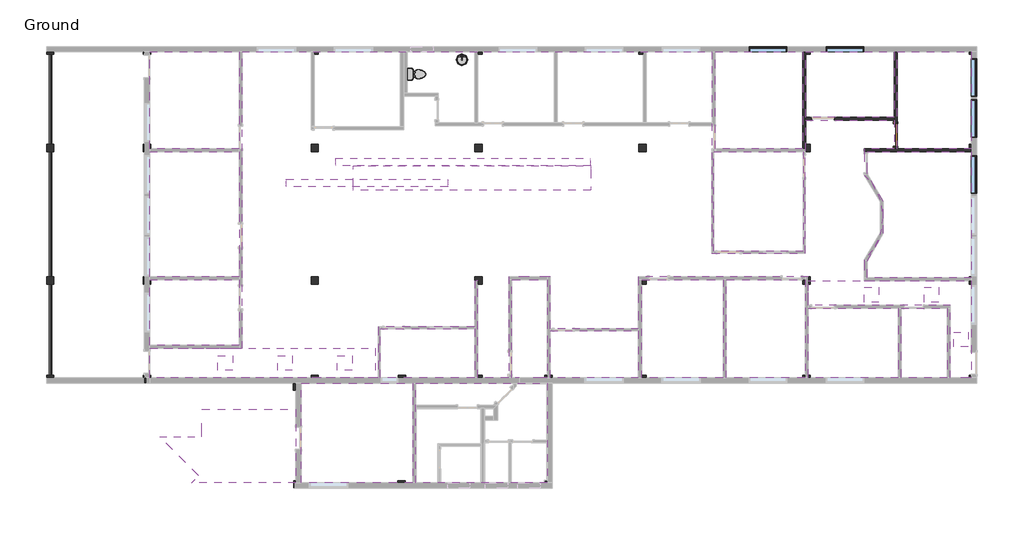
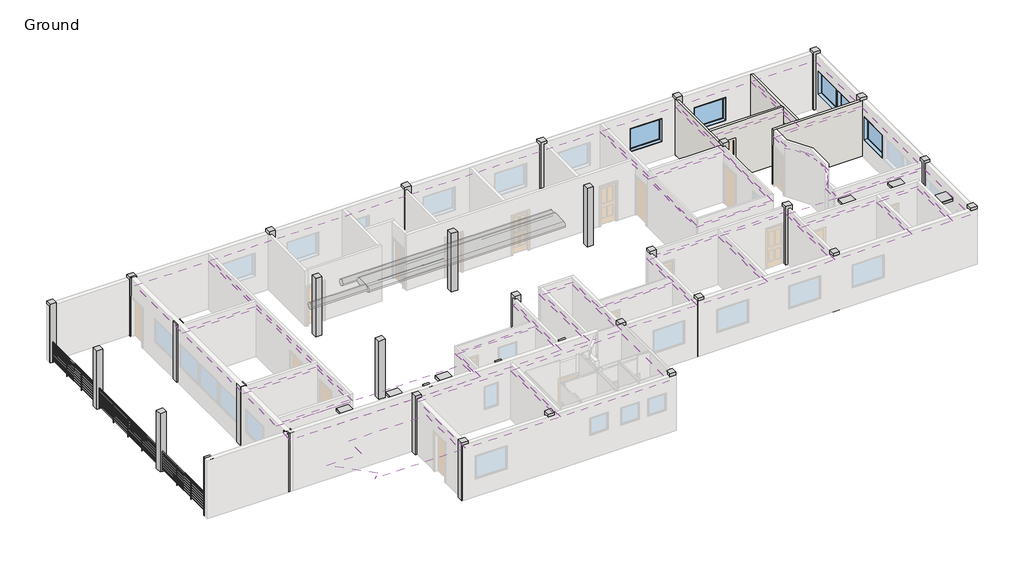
# One storey, part 4 of 4: 34 columns, 21 coverings, 6 light fixtures, 5 windows, 4 walls, 3 duct segments, 3 railings, 2 flow terminals, 1 door.
"""IFC4 building model written with IfcOpenShell, lengths in millimetres."""

from ifc_helpers import new_model, si_unit, point, frame, frame_2d, origin, place, context, project, spatial, polyline, circle_curve, trimmed, segment, composite_curve, outline, extrude, faceted_brep, transform, mapped, element, save
from components import concrete_square_column_12_x_12_d780e21f, door_43f271b1, m_toilet_domestic_3d_m_toilet_domestic_3d_5cb52bd4, m_toilet_domestic_3d_m_toilet_domestic_3d_183bbd19, flow_terminal_5184717d, m_troffer_lens_0600_x_0600mm_2_lamp_a75f89fe, guardrail_pipe_4b02b070, guardrail_pipe_bb2e5a77, guardrail_pipe_0a43caf4, window_a0bf6c86

model = new_model("IFC4")

# Units and contexts
model_context = context("Model", 3, world=origin())
ifc_project = project(units=[si_unit("LENGTHUNIT", "METRE", prefix="MILLI")], contexts=[model_context])

# Site, building, storey
site = spatial("IfcSite", under=ifc_project)
building = spatial("IfcBuilding", under=site)
storey = spatial("IfcBuildingStorey", under=building, Name="Ground", Elevation=0.0)

# Columns
placement = place(None, origin())
concrete_square_column_12_x_12_shape = concrete_square_column_12_x_12_d780e21f(model_context)
element("IfcColumn", 1, ObjectType="Concrete-Square-Column : 12 x 12", at=placement, inside=storey, context=model_context, shape_type="MappedRepresentation", body=[
    mapped(concrete_square_column_12_x_12_shape, transform((-39928.402824, 22361.49779, 0.0), x_axis=(1.0, 0.0, 0.0), y_axis=(0.0, 1.0, 0.0), z_axis=(0.0, 0.0, 1.0))),
])
element("IfcColumn", 2, ObjectType="Concrete-Square-Column : 12 x 12", at=placement, inside=storey, context=model_context, shape_type="MappedRepresentation", body=[
    mapped(concrete_square_column_12_x_12_shape, transform((-33070.402824, 22361.49779, 0.0), x_axis=(1.0, 0.0, 0.0), y_axis=(0.0, 1.0, 0.0), z_axis=(0.0, 0.0, 1.0))),
])
element("IfcColumn", 3, ObjectType="Concrete-Square-Column : 12 x 12", at=placement, inside=storey, context=model_context, shape_type="MappedRepresentation", body=[
    mapped(concrete_square_column_12_x_12_shape, transform((-26364.802824, 22361.49779, 0.0), x_axis=(1.0, 0.0, 0.0), y_axis=(0.0, 1.0, 0.0), z_axis=(0.0, 0.0, 1.0))),
])
element("IfcColumn", 4, ObjectType="Concrete-Square-Column : 12 x 12", at=placement, inside=storey, context=model_context, shape_type="MappedRepresentation", body=[
    mapped(concrete_square_column_12_x_12_shape, transform((-19659.202824, 22361.49779, 0.0), x_axis=(1.0, 0.0, 0.0), y_axis=(0.0, 1.0, 0.0), z_axis=(0.0, 0.0, 1.0))),
])
element("IfcColumn", 5, ObjectType="Concrete-Square-Column : 12 x 12", at=placement, inside=storey, context=model_context, shape_type="MappedRepresentation", body=[
    mapped(concrete_square_column_12_x_12_shape, transform((-12953.602824, 22361.49779, 0.0), x_axis=(1.0, 0.0, 0.0), y_axis=(0.0, 1.0, 0.0), z_axis=(0.0, 0.0, 1.0))),
])
element("IfcColumn", 6, ObjectType="Concrete-Square-Column : 12 x 12", at=placement, inside=storey, context=model_context, shape_type="MappedRepresentation", body=[
    mapped(concrete_square_column_12_x_12_shape, transform((-6151.165324, 22361.49779, 0.0), x_axis=(1.0, 0.0, 0.0), y_axis=(0.0, 1.0, 0.0), z_axis=(0.0, 0.0, 1.0))),
])
element("IfcColumn", 7, ObjectType="Concrete-Square-Column : 12 x 12", at=placement, inside=storey, context=model_context, shape_type="MappedRepresentation", body=[
    mapped(concrete_square_column_12_x_12_shape, transform((-39928.402824, 18378.46029, 0.0), x_axis=(1.0, 0.0, 0.0), y_axis=(0.0, 1.0, 0.0), z_axis=(0.0, 0.0, 1.0))),
])
element("IfcColumn", 8, ObjectType="Concrete-Square-Column : 12 x 12", at=placement, inside=storey, context=model_context, shape_type="MappedRepresentation", body=[
    mapped(concrete_square_column_12_x_12_shape, transform((-39928.402824, 12965.08529, 0.0), x_axis=(1.0, 0.0, 0.0), y_axis=(0.0, 1.0, 0.0), z_axis=(0.0, 0.0, 1.0))),
])
element("IfcColumn", 9, ObjectType="Concrete-Square-Column : 12 x 12", at=placement, inside=storey, context=model_context, shape_type="MappedRepresentation", body=[
    mapped(concrete_square_column_12_x_12_shape, transform((-39928.402824, 8918.54779, 0.0), x_axis=(1.0, 0.0, 0.0), y_axis=(0.0, 1.0, 0.0), z_axis=(0.0, 0.0, 1.0))),
])
element("IfcColumn", 10, ObjectType="Concrete-Square-Column : 12 x 12", at=placement, inside=storey, context=model_context, shape_type="MappedRepresentation", body=[
    mapped(concrete_square_column_12_x_12_shape, transform((-33070.402824, 8918.54779, 0.0), x_axis=(1.0, 0.0, 0.0), y_axis=(0.0, 1.0, 0.0), z_axis=(0.0, 0.0, 1.0))),
])
element("IfcColumn", 11, ObjectType="Concrete-Square-Column : 12 x 12", at=placement, inside=storey, context=model_context, shape_type="MappedRepresentation", body=[
    mapped(concrete_square_column_12_x_12_shape, transform((-33070.402824, 12965.08529, 0.0), x_axis=(1.0, 0.0, 0.0), y_axis=(0.0, 1.0, 0.0), z_axis=(0.0, 0.0, 1.0))),
])
element("IfcColumn", 12, ObjectType="Concrete-Square-Column : 12 x 12", at=placement, inside=storey, context=model_context, shape_type="MappedRepresentation", body=[
    mapped(concrete_square_column_12_x_12_shape, transform((-26364.802824, 12965.08529, 0.0), x_axis=(1.0, 0.0, 0.0), y_axis=(0.0, 1.0, 0.0), z_axis=(0.0, 0.0, 1.0))),
])
element("IfcColumn", 13, ObjectType="Concrete-Square-Column : 12 x 12", at=placement, inside=storey, context=model_context, shape_type="MappedRepresentation", body=[
    mapped(concrete_square_column_12_x_12_shape, transform((-26364.802824, 8918.54779, 0.0), x_axis=(1.0, 0.0, 0.0), y_axis=(0.0, 1.0, 0.0), z_axis=(0.0, 0.0, 1.0))),
])
element("IfcColumn", 14, ObjectType="Concrete-Square-Column : 12 x 12", at=placement, inside=storey, context=model_context, shape_type="MappedRepresentation", body=[
    mapped(concrete_square_column_12_x_12_shape, transform((-19659.202824, 8918.54779, 0.0), x_axis=(1.0, 0.0, 0.0), y_axis=(0.0, 1.0, 0.0), z_axis=(0.0, 0.0, 1.0))),
])
element("IfcColumn", 15, ObjectType="Concrete-Square-Column : 12 x 12", at=placement, inside=storey, context=model_context, shape_type="MappedRepresentation", body=[
    mapped(concrete_square_column_12_x_12_shape, transform((-19659.202824, 12965.08529, 0.0), x_axis=(1.0, 0.0, 0.0), y_axis=(0.0, 1.0, 0.0), z_axis=(0.0, 0.0, 1.0))),
])
element("IfcColumn", 16, ObjectType="Concrete-Square-Column : 12 x 12", at=placement, inside=storey, context=model_context, shape_type="MappedRepresentation", body=[
    mapped(concrete_square_column_12_x_12_shape, transform((-12953.602824, 12965.08529, 0.0), x_axis=(1.0, 0.0, 0.0), y_axis=(0.0, 1.0, 0.0), z_axis=(0.0, 0.0, 1.0))),
])
element("IfcColumn", 17, ObjectType="Concrete-Square-Column : 12 x 12", at=placement, inside=storey, context=model_context, shape_type="MappedRepresentation", body=[
    mapped(concrete_square_column_12_x_12_shape, transform((-12953.602824, 8918.54779, 0.0), x_axis=(1.0, 0.0, 0.0), y_axis=(0.0, 1.0, 0.0), z_axis=(0.0, 0.0, 1.0))),
])
element("IfcColumn", 18, ObjectType="Concrete-Square-Column : 12 x 12", at=placement, inside=storey, context=model_context, shape_type="MappedRepresentation", body=[
    mapped(concrete_square_column_12_x_12_shape, transform((-6151.165324, 8918.54779, 0.0), x_axis=(1.0, 0.0, 0.0), y_axis=(0.0, 1.0, 0.0), z_axis=(0.0, 0.0, 1.0))),
])
element("IfcColumn", 19, ObjectType="Concrete-Square-Column : 12 x 12", at=placement, inside=storey, context=model_context, shape_type="MappedRepresentation", body=[
    mapped(concrete_square_column_12_x_12_shape, transform((-6151.165324, 12965.08529, 0.0), x_axis=(1.0, 0.0, 0.0), y_axis=(0.0, 1.0, 0.0), z_axis=(0.0, 0.0, 1.0))),
])
element("IfcColumn", 20, ObjectType="Concrete-Square-Column : 12 x 12", at=placement, inside=storey, context=model_context, shape_type="MappedRepresentation", body=[
    mapped(concrete_square_column_12_x_12_shape, transform((-6151.165324, 18378.46029, 0.0), x_axis=(1.0, 0.0, 0.0), y_axis=(0.0, 1.0, 0.0), z_axis=(0.0, 0.0, 1.0))),
])
element("IfcColumn", 21, ObjectType="Concrete-Square-Column : 12 x 12", at=placement, inside=storey, context=model_context, shape_type="MappedRepresentation", body=[
    mapped(concrete_square_column_12_x_12_shape, transform((-12953.602824, 18378.46029, 0.0), x_axis=(1.0, 0.0, 0.0), y_axis=(0.0, 1.0, 0.0), z_axis=(0.0, 0.0, 1.0))),
])
element("IfcColumn", 22, ObjectType="Concrete-Square-Column : 12 x 12", at=placement, inside=storey, context=model_context, shape_type="MappedRepresentation", body=[
    mapped(concrete_square_column_12_x_12_shape, transform((-19659.202824, 18378.46029, 0.0), x_axis=(1.0, 0.0, 0.0), y_axis=(0.0, 1.0, 0.0), z_axis=(0.0, 0.0, 1.0))),
])
element("IfcColumn", 23, ObjectType="Concrete-Square-Column : 12 x 12", at=placement, inside=storey, context=model_context, shape_type="MappedRepresentation", body=[
    mapped(concrete_square_column_12_x_12_shape, transform((-26364.802824, 18378.46029, 0.0), x_axis=(1.0, 0.0, 0.0), y_axis=(0.0, 1.0, 0.0), z_axis=(0.0, 0.0, 1.0))),
])
element("IfcColumn", 24, ObjectType="Concrete-Square-Column : 12 x 12", at=placement, inside=storey, context=model_context, shape_type="MappedRepresentation", body=[
    mapped(concrete_square_column_12_x_12_shape, transform((-33070.402824, 18378.46029, 0.0), x_axis=(1.0, 0.0, 0.0), y_axis=(0.0, 1.0, 0.0), z_axis=(0.0, 0.0, 1.0))),
])
element("IfcColumn", 25, ObjectType="Concrete-Square-Column : 12 x 12", at=placement, inside=storey, context=model_context, shape_type="MappedRepresentation", body=[
    mapped(concrete_square_column_12_x_12_shape, transform((-43890.802824, 8918.54779, 0.0), x_axis=(1.0, 0.0, 0.0), y_axis=(0.0, 1.0, 0.0), z_axis=(0.0, 0.0, 1.0))),
])
element("IfcColumn", 26, ObjectType="Concrete-Square-Column : 12 x 12", at=placement, inside=storey, context=model_context, shape_type="MappedRepresentation", body=[
    mapped(concrete_square_column_12_x_12_shape, transform((-43890.802824, 12965.08529, 0.0), x_axis=(1.0, 0.0, 0.0), y_axis=(0.0, 1.0, 0.0), z_axis=(0.0, 0.0, 1.0))),
])
element("IfcColumn", 27, ObjectType="Concrete-Square-Column : 12 x 12", at=placement, inside=storey, context=model_context, shape_type="MappedRepresentation", body=[
    mapped(concrete_square_column_12_x_12_shape, transform((-43890.802824, 18378.46029, 0.0), x_axis=(1.0, 0.0, 0.0), y_axis=(0.0, 1.0, 0.0), z_axis=(0.0, 0.0, 1.0))),
])
element("IfcColumn", 28, ObjectType="Concrete-Square-Column : 12 x 12", at=placement, inside=storey, context=model_context, shape_type="MappedRepresentation", body=[
    mapped(concrete_square_column_12_x_12_shape, transform((-43890.802824, 22361.49779, 0.0), x_axis=(1.0, 0.0, 0.0), y_axis=(0.0, 1.0, 0.0), z_axis=(0.0, 0.0, 1.0))),
])
element("IfcColumn", 29, ObjectType="Concrete-Square-Column : 12 x 12", at=placement, inside=storey, context=model_context, shape_type="MappedRepresentation", body=[
    mapped(concrete_square_column_12_x_12_shape, transform((-23512.065324, 8918.54779, 0.0), x_axis=(1.0, 0.0, 0.0), y_axis=(0.0, 1.0, 0.0), z_axis=(0.0, 0.0, 1.0))),
])
element("IfcColumn", 30, ObjectType="Concrete-Square-Column : 12 x 12", at=placement, inside=storey, context=model_context, shape_type="MappedRepresentation", body=[
    mapped(concrete_square_column_12_x_12_shape, transform((-23512.065324, 4621.18529, 0.0), x_axis=(1.0, 0.0, 0.0), y_axis=(0.0, 1.0, 0.0), z_axis=(0.0, 0.0, 1.0))),
])
element("IfcColumn", 31, ObjectType="Concrete-Square-Column : 12 x 12", at=placement, inside=storey, context=model_context, shape_type="MappedRepresentation", body=[
    mapped(concrete_square_column_12_x_12_shape, transform((-29508.052824, 8918.54779, 0.0), x_axis=(1.0, 0.0, 0.0), y_axis=(0.0, 1.0, 0.0), z_axis=(0.0, 0.0, 1.0))),
])
element("IfcColumn", 32, ObjectType="Concrete-Square-Column : 12 x 12", at=placement, inside=storey, context=model_context, shape_type="MappedRepresentation", body=[
    mapped(concrete_square_column_12_x_12_shape, transform((-33791.127824, 8613.74779, 0.0), x_axis=(1.0, 0.0, 0.0), y_axis=(0.0, 1.0, 0.0), z_axis=(0.0, 0.0, 1.0))),
])
element("IfcColumn", 33, ObjectType="Concrete-Square-Column : 12 x 12", at=placement, inside=storey, context=model_context, shape_type="MappedRepresentation", body=[
    mapped(concrete_square_column_12_x_12_shape, transform((-29516.8878988, 4621.18529, 0.0), x_axis=(1.0, 0.0, 0.0), y_axis=(0.0, 1.0, 0.0), z_axis=(0.0, 0.0, 1.0))),
])
element("IfcColumn", 34, ObjectType="Concrete-Square-Column : 12 x 12", at=placement, inside=storey, context=model_context, shape_type="MappedRepresentation", body=[
    mapped(concrete_square_column_12_x_12_shape, transform((-33784.0878988, 4621.18529, 0.0), x_axis=(1.0, 0.0, 0.0), y_axis=(0.0, 1.0, 0.0), z_axis=(0.0, 0.0, 1.0))),
])

# Coverings
element("IfcCovering", 35, ObjectType="2' x 4' ACT System", at=placement, inside=storey, context=model_context, shape_type="SweptSolid", body=[
    extrude(outline(polyline([(-39818.865324, 18349.88529), (-39818.865324, 22307.52279), (-36166.027824, 22307.52279), (-36166.027824, 18349.88529), (-39818.865324, 18349.88529)])), frame((0.0, 0.0, 2514.6), z_axis=(0.0, 0.0, 1.0), x_axis=(1.0, 0.0, 0.0)), (0.0, 0.0, 1.0), 57.15),
])
element("IfcCovering", 36, ObjectType="2' x 4' ACT System", at=placement, inside=storey, context=model_context, shape_type="SweptSolid", body=[
    extrude(outline(polyline([(-36166.027824, 13117.48529), (-39818.865324, 13117.48529), (-39818.865324, 18226.06029), (-36166.027824, 18226.06029), (-36166.027824, 13117.48529)])), frame((0.0, 0.0, 2514.6), z_axis=(0.0, 0.0, 1.0), x_axis=(1.0, 0.0, 0.0)), (0.0, 0.0, 1.0), 57.15),
])
element("IfcCovering", 37, ObjectType="2' x 4' ACT System", at=placement, inside=storey, context=model_context, shape_type="SweptSolid", body=[
    extrude(outline(polyline([(-36166.027824, 10304.9644567), (-39818.865324, 10304.9644567), (-39818.865324, 12993.66029), (-36166.027824, 12993.66029), (-36166.027824, 10304.9644567)])), frame((0.0, 0.0, 2514.6), z_axis=(0.0, 0.0, 1.0), x_axis=(1.0, 0.0, 0.0)), (0.0, 0.0, 1.0), 57.15),
])
element("IfcCovering", 38, ObjectType="2' x 4' ACT System", at=placement, inside=storey, context=model_context, shape_type="SweptSolid", body=[
    extrude(outline(polyline([(-16688.990324, 22307.52279), (-13106.002824, 22307.52279), (-13106.002824, 18343.53529), (-16688.990324, 18343.53529), (-16688.990324, 22307.52279)])), frame((0.0, 0.0, 2514.6), z_axis=(0.0, 0.0, 1.0), x_axis=(1.0, 0.0, 0.0)), (0.0, 0.0, 1.0), 57.15),
])
element("IfcCovering", 39, ObjectType="2' x 4' ACT System", at=placement, inside=storey, context=model_context, shape_type="SweptSolid", body=[
    extrude(outline(polyline([(-12982.177824, 22307.52279), (-9372.202824, 22307.52279), (-9372.202824, 19632.58529), (-12982.177824, 19632.58529), (-12982.177824, 22307.52279)])), frame((0.0, 0.0, 2514.6), z_axis=(0.0, 0.0, 1.0), x_axis=(1.0, 0.0, 0.0)), (0.0, 0.0, 1.0), 57.15),
])
element("IfcCovering", 40, ObjectType="2' x 4' ACT System", at=placement, inside=storey, context=model_context, shape_type="SweptSolid", body=[
    extrude(outline(polyline([(-9248.377824, 22307.52279), (-6205.140324, 22307.52279), (-6205.140324, 18343.53529), (-9248.377824, 18343.53529), (-9248.377824, 22307.52279)])), frame((0.0, 0.0, 2514.6), z_axis=(0.0, 0.0, 1.0), x_axis=(1.0, 0.0, 0.0)), (0.0, 0.0, 1.0), 57.15),
])
element("IfcCovering", 41, ObjectType="2' x 4' ACT System", at=placement, inside=storey, context=model_context, shape_type="SweptSolid", body=[
    extrude(outline(composite_curve([segment(polyline([(-10467.577824, 18219.71029), (-6205.140324, 18219.71029), (-6205.140324, 13073.03529), (-10467.577824, 13073.03529), (-10467.577824, 13753.2813276)]), True, "CONTINUOUS"), segment(trimmed(circle_curve(frame_2d((-12218.244142, 15538.42279)), 2500.3125), [point((-10467.577824, 13753.2813276))], [point((-10467.577824, 17323.5642525))], True, "CARTESIAN"), True, "CONTINUOUS"), segment(polyline([(-10467.577824, 17323.5642525), (-10467.577824, 18219.71029)]), True, "CONTINUOUS")], self_intersect=False)), frame((0.0, 0.0, 2514.6), z_axis=(0.0, 0.0, 1.0), x_axis=(1.0, 0.0, 0.0)), (0.0, 0.0, 1.0), 57.15),
])
element("IfcCovering", 42, ObjectType="2' x 4' ACT System", at=placement, inside=storey, context=model_context, shape_type="SweptSolid", body=[
    extrude(outline(polyline([(-16741.377824, 14150.94779), (-16741.377824, 18219.71029), (-13083.777824, 18219.71029), (-13083.777824, 14150.94779), (-16741.377824, 14150.94779)])), frame((0.0, 0.0, 2514.6), z_axis=(0.0, 0.0, 1.0), x_axis=(1.0, 0.0, 0.0)), (0.0, 0.0, 1.0), 57.15),
])
element("IfcCovering", 43, ObjectType="2' x 4' ACT System", at=placement, inside=storey, context=model_context, shape_type="SweptSolid", body=[
    extrude(outline(polyline([(-16231.790324, 12993.66029), (-13015.515324, 12993.66029), (-13015.515324, 8972.52279), (-16231.790324, 8972.52279), (-16231.790324, 12993.66029)])), frame((0.0, 0.0, 2514.6), z_axis=(0.0, 0.0, 1.0), x_axis=(1.0, 0.0, 0.0)), (0.0, 0.0, 1.0), 57.15),
])
element("IfcCovering", 44, ObjectType="2' x 4' ACT System", at=placement, inside=storey, context=model_context, shape_type="SweptSolid", body=[
    extrude(outline(polyline([(-19703.652824, 12993.66029), (-16355.615324, 12993.66029), (-16355.615324, 8972.52279), (-19703.652824, 8972.52279), (-19703.652824, 12993.66029)])), frame((0.0, 0.0, 2514.6), z_axis=(0.0, 0.0, 1.0), x_axis=(1.0, 0.0, 0.0)), (0.0, 0.0, 1.0), 57.15),
])
element("IfcCovering", 45, ObjectType="2' x 4' ACT System", at=placement, inside=storey, context=model_context, shape_type="SweptSolid", body=[
    extrude(outline(polyline([(-9207.102824, 8972.52279), (-12891.690324, 8972.52279), (-12891.690324, 11818.91029), (-9207.102824, 11818.91029), (-9207.102824, 8972.52279)])), frame((0.0, 0.0, 2514.6), z_axis=(0.0, 0.0, 1.0), x_axis=(1.0, 0.0, 0.0)), (0.0, 0.0, 1.0), 57.15),
])
element("IfcCovering", 46, ObjectType="2' x 4' ACT System", at=placement, inside=storey, context=model_context, shape_type="SweptSolid", body=[
    extrude(outline(polyline([(-7195.740324, 8972.52279), (-9083.277824, 8972.52279), (-9083.277824, 11818.91029), (-7195.740324, 11818.91029), (-7195.740324, 8972.52279)])), frame((0.0, 0.0, 2514.6), z_axis=(0.0, 0.0, 1.0), x_axis=(1.0, 0.0, 0.0)), (0.0, 0.0, 1.0), 57.15),
])
element("IfcCovering", 47, ObjectType="2' x 4' ACT System", at=placement, inside=storey, context=model_context, shape_type="SweptSolid", body=[
    extrude(outline(polyline([(-23432.690324, 10894.98529), (-19827.477824, 10894.98529), (-19827.477824, 8972.52279), (-23432.690324, 8972.52279), (-23432.690324, 10894.98529)])), frame((0.0, 0.0, 2514.6), z_axis=(0.0, 0.0, 1.0), x_axis=(1.0, 0.0, 0.0)), (0.0, 0.0, 1.0), 57.15),
])
element("IfcCovering", 48, ObjectType="2' x 4' ACT System", at=placement, inside=storey, context=model_context, shape_type="SweptSolid", body=[
    extrude(outline(polyline([(-25020.190324, 12993.66029), (-23556.515324, 12993.66029), (-23556.515324, 8972.52279), (-24701.102824, 8972.52279), (-25020.190324, 8972.52279), (-25020.190324, 12993.66029)])), frame((0.0, 0.0, 2514.6), z_axis=(0.0, 0.0, 1.0), x_axis=(1.0, 0.0, 0.0)), (0.0, 0.0, 1.0), 57.15),
])
element("IfcCovering", 49, ObjectType="2' x 4' ACT System", at=placement, inside=storey, context=model_context, shape_type="SweptSolid", body=[
    extrude(outline(polyline([(-30397.052824, 10987.06029), (-26533.077824, 10987.06029), (-26533.077824, 8972.52279), (-30397.052824, 8972.52279), (-30397.052824, 10987.06029)])), frame((0.0, 0.0, 2514.6), z_axis=(0.0, 0.0, 1.0), x_axis=(1.0, 0.0, 0.0)), (0.0, 0.0, 1.0), 57.15),
])
element("IfcCovering", 50, ObjectType="2' x 4' ACT System", at=placement, inside=storey, context=model_context, shape_type="SweptSolid", body=[
    extrude(outline(polyline([(-29065.140324, 8753.44779), (-29065.140324, 4675.16029), (-33632.377824, 4675.16029), (-33632.377824, 8753.44779), (-29065.140324, 8753.44779)])), frame((0.0, 0.0, 2514.6), z_axis=(0.0, 0.0, 1.0), x_axis=(1.0, 0.0, 0.0)), (0.0, 0.0, 1.0), 57.15),
])
element("IfcCovering", 51, ObjectType="2' x 4' ACT System", at=placement, inside=storey, context=model_context, shape_type="SweptSolid", body=[
    extrude(outline(polyline([(-33853.040324, 7686.64779), (-33853.040324, 4675.16029), (-38096.1227235, 4675.16029), (-37812.8000173, 4958.4829962), (-39418.5074722, 6564.1904511), (-37685.265324, 6564.1904511), (-37685.265324, 7686.64779), (-33853.040324, 7686.64779)])), frame((0.0, 0.0, 2514.6), z_axis=(0.0, 0.0, 1.0), x_axis=(1.0, 0.0, 0.0)), (0.0, 0.0, 1.0), 57.15),
])
element("IfcCovering", 52, ObjectType="2' x 4' ACT System", at=placement, inside=storey, context=model_context, shape_type="SweptSolid", body=[
    extrude(outline(polyline([(-12891.690324, 12949.21029), (-6205.140324, 12949.21029), (-6205.140324, 8972.52279), (-7071.915324, 8972.52279), (-7071.915324, 11942.73529), (-12891.690324, 11942.73529), (-12891.690324, 12949.21029)]), holes=[polyline([(-9992.2426179, 12673.77904), (-10592.2426179, 12673.77904), (-10592.2426179, 12073.77904), (-9992.2426179, 12073.77904), (-9992.2426179, 12673.77904)]), polyline([(-7544.2426179, 12673.77904), (-8144.2426179, 12673.77904), (-8144.2426179, 12073.77904), (-7544.2426179, 12073.77904), (-7544.2426179, 12673.77904)]), polyline([(-6334.6426179, 10844.97904), (-6934.6426179, 10844.97904), (-6934.6426179, 10244.97904), (-6334.6426179, 10244.97904), (-6334.6426179, 10844.97904)])]), frame((0.0, 0.0, 2514.6), z_axis=(0.0, 0.0, 1.0), x_axis=(1.0, 0.0, 0.0)), (0.0, 0.0, 1.0), 57.15),
])
element("IfcCovering", 53, ObjectType="2' x 4' ACT System", at=placement, inside=storey, context=model_context, shape_type="SweptSolid", body=[
    extrude(outline(polyline([(-30589.140324, 10181.1394567), (-30589.140324, 8972.52279), (-39818.865324, 8972.52279), (-39818.865324, 10181.1394567), (-30589.140324, 10181.1394567)]), holes=[polyline([(-33981.627824, 9877.32279), (-34581.627824, 9877.32279), (-34581.627824, 9277.32279), (-33981.627824, 9277.32279), (-33981.627824, 9877.32279)]), polyline([(-31543.227824, 9877.32279), (-32143.227824, 9877.32279), (-32143.227824, 9277.32279), (-31543.227824, 9277.32279), (-31543.227824, 9877.32279)]), polyline([(-36432.802824, 9881.5561234), (-37032.802824, 9881.5561234), (-37032.802824, 9281.5561234), (-36432.802824, 9281.5561234), (-36432.802824, 9881.5561234)])]), frame((0.0, 0.0, 2514.6), z_axis=(0.0, 0.0, 1.0), x_axis=(1.0, 0.0, 0.0)), (0.0, 0.0, 1.0), 57.15),
])
element("IfcCovering", 54, ObjectType="2' x 4' ACT System", at=placement, inside=storey, context=model_context, shape_type="SweptSolid", body=[
    extrude(outline(polyline([(-23566.040324, 8753.44779), (-23566.040324, 4675.16029), (-28941.315324, 4675.16029), (-28941.315324, 8753.44779), (-23566.040324, 8753.44779)])), frame((0.0, 0.0, 2514.6), z_axis=(0.0, 0.0, 1.0), x_axis=(1.0, 0.0, 0.0)), (0.0, 0.0, 1.0), 57.15),
])
element("IfcCovering", 55, ObjectType="2' x 4' ACT System", at=placement, inside=storey, context=model_context, shape_type="SweptSolid", body=[
    extrude(outline(composite_curve([segment(polyline([(-30476.427824, 8972.52279), (-39818.865324, 8972.52279), (-39818.865324, 10181.1394567), (-36042.202824, 10181.1394567), (-36042.202824, 22307.52279), (-16820.752824, 22307.52279), (-16820.752824, 14071.57279), (-13004.402824, 14071.57279), (-13004.402824, 18281.62279), (-12982.177824, 18281.62279), (-12982.177824, 19508.76029), (-9372.202824, 19508.76029), (-9372.202824, 18343.53529), (-10591.402824, 18343.53529), (-10591.402824, 17270.785386)]), True, "CONTINUOUS"), segment(trimmed(circle_curve(frame_2d((-12218.244142, 15538.42279)), 2376.4875), [point((-10591.402824, 17270.785386))], [point((-10591.402824, 13806.060194))], False, "CARTESIAN"), True, "CONTINUOUS"), segment(polyline([(-10591.402824, 13806.060194), (-10591.402824, 12949.21029), (-6205.140324, 12949.21029), (-6205.140324, 8972.52279), (-7071.915324, 8972.52279), (-7071.915324, 11942.73529), (-12891.690324, 11942.73529), (-12891.690324, 13117.48529), (-19827.477824, 13117.48529), (-19827.477824, 10974.36029), (-23432.690324, 10974.36029), (-23432.690324, 13117.48529), (-25144.015324, 13117.48529), (-25144.015324, 8972.52279), (-26409.252824, 8972.52279), (-26409.252824, 12947.62279), (-26533.077824, 12947.62279), (-26533.077824, 11066.43529), (-30476.427824, 11066.43529), (-30476.427824, 8972.52279)]), True, "CONTINUOUS")], self_intersect=False)), frame((0.0, 0.0, 2514.6), z_axis=(0.0, 0.0, 1.0), x_axis=(1.0, 0.0, 0.0)), (0.0, 0.0, 1.0), 57.15),
])

# Door
door_shape = door_43f271b1(model_context)
element("IfcDoor", 56, ObjectType="Single-Flush : 36\" x 80\" - D1", at=placement, inside=storey, context=model_context, shape_type="MappedRepresentation", body=[
    mapped(door_shape, transform((-9310.290324, 18910.27279, 0.0), x_axis=(0.0, -1.0, 0.0), y_axis=(1.0, 0.0, 0.0), z_axis=(0.0, 0.0, 1.0))),
])

# Duct segments
element("IfcDuctSegment", 57, ObjectType="Default", at=placement, inside=storey, context=model_context, shape_type="SweptSolid", body=[
    extrude(outline(composite_curve([segment(polyline([(16944.1229671, 2895.6), (16946.6528071, 2895.6)]), True, "CONTINUOUS"), segment(trimmed(circle_curve(frame_2d((16946.6528071, 2743.2)), 152.4), [point((16946.6528071, 2895.6))], [point((17099.0528071, 2743.2))], False, "CARTESIAN"), True, "CONTINUOUS"), segment(trimmed(circle_curve(frame_2d((16946.6528071, 2743.2)), 152.4), [point((17099.0528071, 2743.2))], [point((16946.6528071, 2590.8))], False, "CARTESIAN"), True, "CONTINUOUS"), segment(polyline([(16946.6528071, 2590.8), (16944.1229671, 2590.8)]), True, "CONTINUOUS"), segment(trimmed(circle_curve(frame_2d((16944.1229671, 2743.2)), 152.4), [point((16944.1229671, 2590.8))], [point((16791.7229671, 2743.2))], False, "CARTESIAN"), True, "CONTINUOUS"), segment(trimmed(circle_curve(frame_2d((16944.1229671, 2743.2)), 152.4), [point((16791.7229671, 2743.2))], [point((16944.1229671, 2895.6))], False, "CARTESIAN"), True, "CONTINUOUS")], self_intersect=False)), frame((-34231.968442, 0.0, 0.0), z_axis=(1.0, 0.0, 0.0), x_axis=(0.0, 1.0, 0.0)), (0.0, 0.0, 1.0), 6597.165618),
])
element("IfcDuctSegment", 58, ObjectType="Default", at=placement, inside=storey, context=model_context, shape_type="SweptSolid", body=[
    extrude(outline(composite_curve([segment(polyline([(17793.4483441, 2895.6), (17795.9781841, 2895.6)]), True, "CONTINUOUS"), segment(trimmed(circle_curve(frame_2d((17795.9781841, 2743.2)), 152.4), [point((17795.9781841, 2895.6))], [point((17948.3781841, 2743.2))], False, "CARTESIAN"), True, "CONTINUOUS"), segment(trimmed(circle_curve(frame_2d((17795.9781841, 2743.2)), 152.4), [point((17948.3781841, 2743.2))], [point((17795.9781841, 2590.8))], False, "CARTESIAN"), True, "CONTINUOUS"), segment(polyline([(17795.9781841, 2590.8), (17793.4483441, 2590.8)]), True, "CONTINUOUS"), segment(trimmed(circle_curve(frame_2d((17793.4483441, 2743.2)), 152.4), [point((17793.4483441, 2590.8))], [point((17641.0483441, 2743.2))], False, "CARTESIAN"), True, "CONTINUOUS"), segment(trimmed(circle_curve(frame_2d((17793.4483441, 2743.2)), 152.4), [point((17641.0483441, 2743.2))], [point((17793.4483441, 2895.6))], False, "CARTESIAN"), True, "CONTINUOUS")], self_intersect=False)), frame((-32206.2197541, 0.0, 0.0), z_axis=(1.0, 0.0, 0.0), x_axis=(0.0, 1.0, 0.0)), (0.0, 0.0, 1.0), 10400.0),
])
element("IfcDuctSegment", 59, ObjectType="Default", at=placement, inside=storey, context=model_context, shape_type="SweptSolid", body=[
    extrude(outline(composite_curve([segment(polyline([(16792.2905138, 2895.6), (17503.4905138, 2895.6)]), True, "CONTINUOUS"), segment(trimmed(circle_curve(frame_2d((17503.4905138, 2743.2)), 152.4), [point((17503.4905138, 2895.6))], [point((17655.8905138, 2743.2))], False, "CARTESIAN"), True, "CONTINUOUS"), segment(trimmed(circle_curve(frame_2d((17503.4905138, 2743.2)), 152.4), [point((17655.8905138, 2743.2))], [point((17503.4905138, 2590.8))], False, "CARTESIAN"), True, "CONTINUOUS"), segment(polyline([(17503.4905138, 2590.8), (16792.2905138, 2590.8)]), True, "CONTINUOUS"), segment(trimmed(circle_curve(frame_2d((16792.2905138, 2743.2)), 152.4), [point((16792.2905138, 2590.8))], [point((16639.8905138, 2743.2))], False, "CARTESIAN"), True, "CONTINUOUS"), segment(trimmed(circle_curve(frame_2d((16792.2905138, 2743.2)), 152.4), [point((16639.8905138, 2743.2))], [point((16792.2905138, 2895.6))], False, "CARTESIAN"), True, "CONTINUOUS")], self_intersect=False)), frame((-31488.7692488, 0.0, 0.0), z_axis=(1.0, 0.0, 0.0), x_axis=(0.0, 1.0, 0.0)), (0.0, 0.0, 1.0), 9700.0),
])

# Flow terminals
m_toilet_domestic_3d_m_toilet_domestic_3d_shape = m_toilet_domestic_3d_m_toilet_domestic_3d_5cb52bd4(model_context)
m_toilet_domestic_3d_m_toilet_domestic_3d_2_shape = m_toilet_domestic_3d_m_toilet_domestic_3d_183bbd19(model_context)
element("IfcFlowTerminal", 60, ObjectType="M_Toilet-Domestic-3D : M_Toilet-Domestic-3D", at=placement, inside=storey, context=model_context, shape_type="MappedRepresentation", body=[
    mapped(m_toilet_domestic_3d_m_toilet_domestic_3d_shape, transform((-28830.190324, 21393.12279, 0.0), x_axis=(0.0, 1.0, 0.0), y_axis=(-1.0, 0.0, 0.0), z_axis=(0.0, 0.0, 1.0))),
    mapped(m_toilet_domestic_3d_m_toilet_domestic_3d_2_shape, transform((-28830.190324, 21393.12279, 0.0), x_axis=(0.0, 1.0, 0.0), y_axis=(-1.0, 0.0, 0.0), z_axis=(0.0, 0.0, 1.0))),
])
flow_terminal_shape = flow_terminal_5184717d(model_context)
element("IfcFlowTerminal", 61, ObjectType="Sink Vanity-Round : 19\" x 19\"", at=placement, inside=storey, context=model_context, shape_type="MappedRepresentation", body=[
    mapped(flow_terminal_shape, transform((-27147.2545646, 21903.5734981, 0.0), x_axis=(1.0, 0.0, 0.0), y_axis=(0.0, 1.0, 0.0), z_axis=(0.0, 0.0, 1.0))),
])

# Light fixtures
m_troffer_lens_0600_x_0600mm_2_lamp_shape = m_troffer_lens_0600_x_0600mm_2_lamp_a75f89fe(model_context)
element("IfcLightFixture", 62, ObjectType="M_Troffer - Lens : 0600 x 0600mm (2 Lamp)", at=placement, inside=storey, context=model_context, shape_type="MappedRepresentation", body=[
    mapped(m_troffer_lens_0600_x_0600mm_2_lamp_shape, transform((-34262.9243225, 9636.7887221, 76.2), x_axis=(1.0, 0.0, 0.0), y_axis=(0.0, 1.0, 0.0), z_axis=(0.0, 0.0, 1.0))),
])
element("IfcLightFixture", 63, ObjectType="M_Troffer - Lens : 0600 x 0600mm (2 Lamp)", at=placement, inside=storey, context=model_context, shape_type="MappedRepresentation", body=[
    mapped(m_troffer_lens_0600_x_0600mm_2_lamp_shape, transform((-31824.5243225, 9636.7887221, 76.2), x_axis=(1.0, 0.0, 0.0), y_axis=(0.0, 1.0, 0.0), z_axis=(0.0, 0.0, 1.0))),
])
element("IfcLightFixture", 64, ObjectType="M_Troffer - Lens : 0600 x 0600mm (2 Lamp)", at=placement, inside=storey, context=model_context, shape_type="MappedRepresentation", body=[
    mapped(m_troffer_lens_0600_x_0600mm_2_lamp_shape, transform((-36714.0993225, 9641.0220555, 76.2), x_axis=(1.0, 0.0, 0.0), y_axis=(0.0, 1.0, 0.0), z_axis=(0.0, 0.0, 1.0))),
])
element("IfcLightFixture", 65, ObjectType="M_Troffer - Lens : 0600 x 0600mm (2 Lamp)", at=placement, inside=storey, context=model_context, shape_type="MappedRepresentation", body=[
    mapped(m_troffer_lens_0600_x_0600mm_2_lamp_shape, transform((-10273.5391163, 12433.2449721, 76.2), x_axis=(1.0, 0.0, 0.0), y_axis=(0.0, 1.0, 0.0), z_axis=(0.0, 0.0, 1.0))),
])
element("IfcLightFixture", 66, ObjectType="M_Troffer - Lens : 0600 x 0600mm (2 Lamp)", at=placement, inside=storey, context=model_context, shape_type="MappedRepresentation", body=[
    mapped(m_troffer_lens_0600_x_0600mm_2_lamp_shape, transform((-7825.5391163, 12433.2449721, 76.2), x_axis=(1.0, 0.0, 0.0), y_axis=(0.0, 1.0, 0.0), z_axis=(0.0, 0.0, 1.0))),
])
element("IfcLightFixture", 67, ObjectType="M_Troffer - Lens : 0600 x 0600mm (2 Lamp)", at=placement, inside=storey, context=model_context, shape_type="MappedRepresentation", body=[
    mapped(m_troffer_lens_0600_x_0600mm_2_lamp_shape, transform((-6615.9391163, 10604.4449721, 76.2), x_axis=(1.0, 0.0, 0.0), y_axis=(0.0, 1.0, 0.0), z_axis=(0.0, 0.0, 1.0))),
])

# Railings
guardrail_pipe_shape = guardrail_pipe_4b02b070(model_context)
element("IfcRailing", 68, ObjectType="Guardrail - Pipe", at=placement, inside=storey, context=model_context, shape_type="MappedRepresentation", body=[
    mapped(guardrail_pipe_shape, transform((0.0, 0.0, 0.0), x_axis=(1.0, 0.0, 0.0), y_axis=(0.0, 1.0, 0.0), z_axis=(0.0, 0.0, 1.0))),
])
guardrail_pipe_2_shape = guardrail_pipe_bb2e5a77(model_context)
element("IfcRailing", 69, ObjectType="Guardrail - Pipe", at=placement, inside=storey, context=model_context, shape_type="MappedRepresentation", body=[
    mapped(guardrail_pipe_2_shape, transform((0.0, 0.0, 0.0), x_axis=(1.0, 0.0, 0.0), y_axis=(0.0, 1.0, 0.0), z_axis=(0.0, 0.0, 1.0))),
])
guardrail_pipe_3_shape = guardrail_pipe_0a43caf4(model_context)
element("IfcRailing", 70, ObjectType="Guardrail - Pipe", at=placement, inside=storey, context=model_context, shape_type="MappedRepresentation", body=[
    mapped(guardrail_pipe_3_shape, transform((0.0, 0.0, 0.0), x_axis=(1.0, 0.0, 0.0), y_axis=(0.0, 1.0, 0.0), z_axis=(0.0, 0.0, 1.0))),
])

# Walls
element("IfcWall", 71, ObjectType="Interior - 5 1/2\" Partition (1-hr)", at=placement, inside=storey, context=model_context, shape_type="Brep", body=[
    faceted_brep([(-6205.140324, 18343.53529, 0.0), (-9248.377824, 18343.53529, 0.0), (-9372.202824, 18343.53529, 0.0), (-10591.402824, 18343.53529, 0.0), (-10591.402824, 18343.53529, 2895.6), (-9372.202824, 18343.53529, 2895.6), (-9248.377824, 18343.53529, 2895.6), (-6205.140324, 18343.53529, 2895.6), (-6205.140324, 18219.71029, 0.0), (-6205.140324, 18219.71029, 2895.6), (-10467.577824, 18219.71029, 2895.6), (-10591.402824, 18219.71029, 2895.6), (-10591.402824, 18219.71029, 0.0), (-10467.577824, 18219.71029, 0.0)], [[[0, 1, 2, 3, 4, 5, 6, 7]], [[8, 9, 10, 11, 12, 13]], [[3, 2, 1, 0, 8, 13, 12]], [[7, 6, 5, 4, 11, 10, 9]], [[4, 3, 12, 11]], [[0, 7, 9, 8]]]),
])
element("IfcWall", 72, ObjectType="Interior - 5 1/2\" Partition (1-hr)", at=placement, inside=storey, context=model_context, shape_type="Brep", body=[
    faceted_brep([(-9372.202824, 18343.53529, 0.0), (-9372.202824, 18453.07279, 0.0), (-9248.377824, 18453.07279, 0.0), (-9248.377824, 18343.53529, 0.0), (-9372.202824, 19367.47279, 0.0), (-9372.202824, 19508.76029, 0.0), (-9372.202824, 19632.58529, 0.0), (-9372.202824, 22307.52279, 0.0), (-9248.377824, 22307.52279, 0.0), (-9248.377824, 19367.47279, 0.0), (-9248.377824, 18343.53529, 2895.6), (-9248.377824, 22307.52279, 2895.6), (-9372.202824, 22307.52279, 2895.6), (-9372.202824, 19632.58529, 2895.6), (-9372.202824, 19508.76029, 2895.6), (-9372.202824, 18343.53529, 2895.6), (-9248.377824, 18453.07279, 2032.0), (-9248.377824, 19367.47279, 2032.0), (-9372.202824, 18453.07279, 2032.0), (-9372.202824, 19367.47279, 2032.0)], [[[0, 1, 2, 3]], [[4, 5, 6, 7, 8, 9]], [[10, 11, 12, 13, 14, 15]], [[3, 2, 16, 17, 9, 8, 11, 10]], [[18, 1, 0, 15, 14, 13, 12, 7, 6, 5, 4, 19]], [[11, 8, 7, 12]], [[3, 10, 15, 0]], [[16, 2, 1, 18]], [[17, 16, 18, 19]], [[9, 17, 19, 4]]]),
])
element("IfcWall", 73, ObjectType="Interior - 5 1/2\" Partition (1-hr)", at=placement, inside=storey, context=model_context, shape_type="SweptSolid", body=[
    extrude(outline(polyline([(0.0, -12982.177824), (0.0, -12731.352824), (2032.0, -12731.352824), (2032.0, -11816.952824), (0.0, -11816.952824), (0.0, -9372.202824), (2895.6, -9372.202824), (2895.6, -12982.177824), (0.0, -12982.177824)])), frame((0.0, 19508.76029, 0.0), z_axis=(0.0, 1.0, 0.0), x_axis=(0.0, 0.0, 1.0)), (0.0, 0.0, 1.0), 123.825),
])
element("IfcWall", 74, ObjectType="Interior - 5 1/2\" Partition (1-hr)", at=placement, inside=storey, context=model_context, shape_type="Brep", body=[
    faceted_brep([(-12982.177824, 18343.53529, 0.0), (-12982.177824, 19508.76029, 0.0), (-12982.177824, 19632.58529, 0.0), (-12982.177824, 22307.52279, 0.0), (-12982.177824, 22307.52279, 2895.6), (-12982.177824, 19632.58529, 2895.6), (-12982.177824, 19508.76029, 2895.6), (-12982.177824, 18343.53529, 2895.6), (-13106.002824, 18343.53529, 0.0), (-13106.002824, 18343.53529, 2895.6), (-13106.002824, 22307.52279, 2895.6), (-13106.002824, 22307.52279, 0.0)], [[[0, 1, 2, 3, 4, 5, 6, 7]], [[8, 9, 10, 11]], [[3, 2, 1, 0, 8, 11]], [[7, 6, 5, 4, 10, 9]], [[0, 7, 9, 8]], [[4, 3, 11, 10]]]),
])

# Windows
window_shape = window_a0bf6c86(model_context)
element("IfcWindow", 75, ObjectType="Fixed : 60\" x 48\" - W1", at=placement, inside=storey, context=model_context, shape_type="MappedRepresentation", body=[
    mapped(window_shape, transform((-14490.302824, 22417.06029, 0.0), x_axis=(1.0, 0.0, 0.0), y_axis=(0.0, 1.0, 0.0), z_axis=(0.0, 0.0, 1.0))),
])
element("IfcWindow", 76, ObjectType="Fixed : 60\" x 48\" - W1", at=placement, inside=storey, context=model_context, shape_type="MappedRepresentation", body=[
    mapped(window_shape, transform((-11340.702824, 22417.06029, 0.0), x_axis=(1.0, 0.0, 0.0), y_axis=(0.0, 1.0, 0.0), z_axis=(0.0, 0.0, 1.0))),
])
element("IfcWindow", 77, ObjectType="Fixed : 60\" x 48\" - W1", at=placement, inside=storey, context=model_context, shape_type="MappedRepresentation", body=[
    mapped(window_shape, transform((-6095.602824, 21215.32279, 0.0), x_axis=(0.0, -0.9999999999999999, 0.0), y_axis=(0.9999999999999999, 0.0, 0.0), z_axis=(0.0, 0.0, 1.0))),
])
element("IfcWindow", 78, ObjectType="Fixed : 60\" x 48\" - W1", at=placement, inside=storey, context=model_context, shape_type="MappedRepresentation", body=[
    mapped(window_shape, transform((-6095.602824, 19538.92279, 0.0), x_axis=(0.0, -0.9999999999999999, 0.0), y_axis=(0.9999999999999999, 0.0, 0.0), z_axis=(0.0, 0.0, 1.0))),
])
element("IfcWindow", 79, ObjectType="Fixed : 60\" x 48\" - W1", at=placement, inside=storey, context=model_context, shape_type="MappedRepresentation", body=[
    mapped(window_shape, transform((-6095.602824, 17252.92279, 0.0), x_axis=(0.0, -0.9999999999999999, 0.0), y_axis=(0.9999999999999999, 0.0, 0.0), z_axis=(0.0, 0.0, 1.0))),
])

save(model, "model.ifc")
